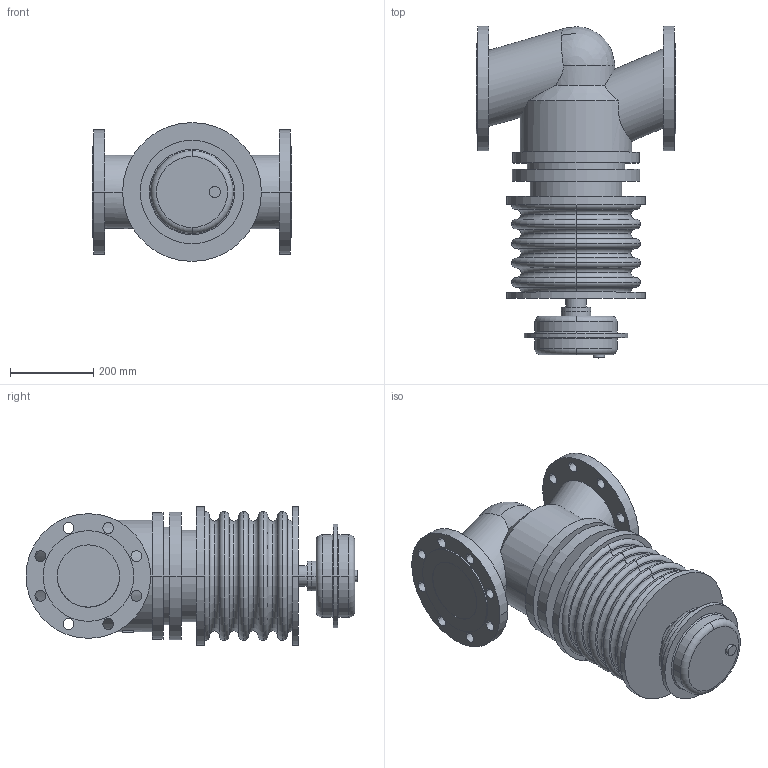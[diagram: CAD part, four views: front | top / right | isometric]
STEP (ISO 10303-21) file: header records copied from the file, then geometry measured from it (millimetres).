
FILE_DESCRIPTION( ( '' ), '1' );
FILE_NAME( 'F:/DE-SHS/TB/OR/04-Sonstiges/daten/files_3d/PREDU/PREDU-PN25-DMA250/c000005372.stp', '2014-06-03T11:16:49', ( '' ), ( '' ), ' ', ' ', ' ' );
FILE_SCHEMA( ( 'CONFIG_CONTROL_DESIGN' ) );
Length unit declared in the file: millimetre
Products named in the file (2): 1; 2
Bounding box: 480 x 798.5 x 334 mm (x, y, z)
Volume: 46854745.8 mm3; surface area: 1486402.3 mm2
Topology: 2 solids, 2 shells, 185 faces, 468 edges, 308 vertices
Faces by surface type: cylinder 80, torus 44, plane 40, cone 20, sphere 1
Entity records: 6417 total; most frequent: CARTESIAN_POINT 1517, DIRECTION 1147, ORIENTED_EDGE 932, AXIS2_PLACEMENT_3D 508, EDGE_CURVE 466, CIRCLE 315, VERTEX_POINT 308, EDGE_LOOP 240
